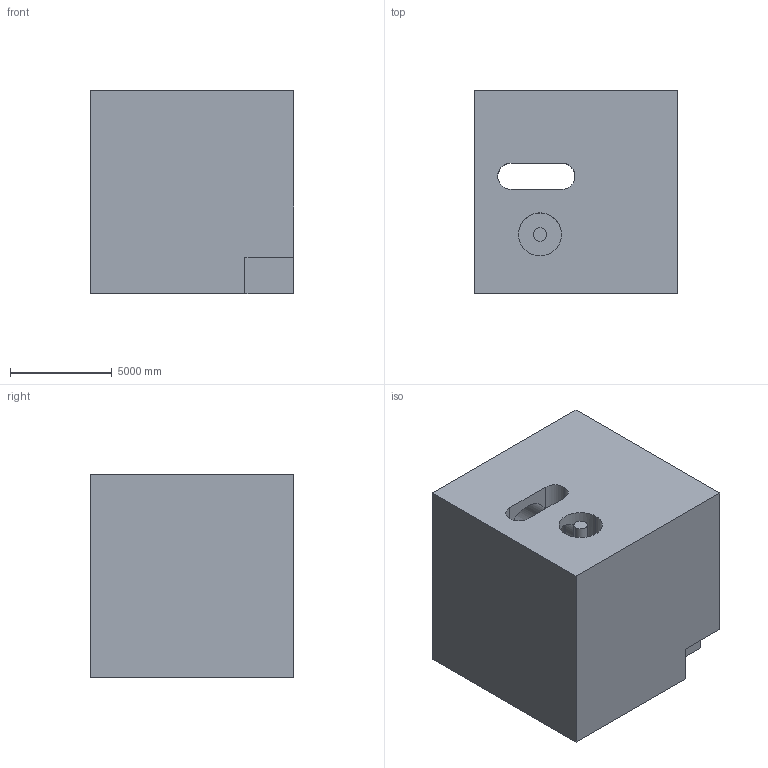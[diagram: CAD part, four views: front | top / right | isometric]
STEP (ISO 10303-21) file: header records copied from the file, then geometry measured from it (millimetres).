
FILE_DESCRIPTION (( 'STEP AP203' ), '1' );
FILE_NAME ('537.STEP', '2022-07-29T11:42:46', ( 'user' ), ( '' ), 'SwSTEP 2.0', 'SolidWorks 2021', '' );
FILE_SCHEMA (( 'CONFIG_CONTROL_DESIGN' ));
Length unit declared in the file: centimetre
Products named in the file (1): 537
Bounding box: 10000 x 10000 x 10000 mm (x, y, z)
Volume: 865961984223.7 mm3; surface area: 802667535.1 mm2
Topology: 1 solids, 1 shells, 38 faces, 105 edges, 70 vertices
Faces by surface type: plane 27, cylinder 11
Entity records: 1665 total; most frequent: CARTESIAN_POINT 591, ORIENTED_EDGE 210, DIRECTION 201, EDGE_CURVE 105, VECTOR 71, LINE 71, VERTEX_POINT 70, AXIS2_PLACEMENT_3D 65
